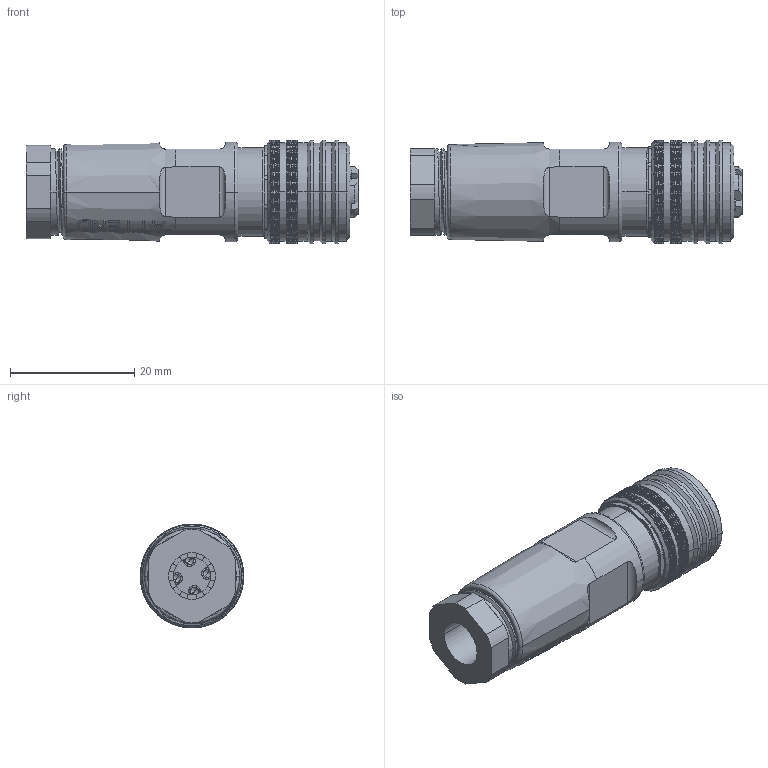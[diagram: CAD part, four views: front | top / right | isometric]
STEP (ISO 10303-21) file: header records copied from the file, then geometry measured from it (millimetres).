
FILE_DESCRIPTION((''),'2;1');
FILE_NAME('216D-04FF2_C_1_ASM','2026-04-27T',('fros.liao'),(''),'CREO PARAMETRIC BY PTC INC, 2018360','CREO PARAMETRIC BY PTC INC, 2018360','');
FILE_SCHEMA(('CONFIG_CONTROL_DESIGN'));
Products named in the file (16): SHIELD_NUT_1; PLASTIC_STRAPS_1; RUBBER_STRAPS_1; BACK_PLUG_1; BODY_1; ORING_PUSHPULL_1; THREAD_SLEEVE_ASM_2_ASM; SHELL_FEMALE_1_1_1; HSG_FEMALE_1_1_1; PIN_FEMALE_1_1_1; LOCK_FEMALE_1_1_1; ORING_FEMALE_1_1_1; OUTSHELL_FEMALE_1_1_1; 216D-04FO2_C_1_ASM_1_ASM_1_ASM; 216D-04FO2_C_1_ASM_1_ASM; 216D-04FF2_C_1_ASM
Assembly tree (18 placements, depth 4):
  216D-04FF2_C_1_ASM
    THREAD_SLEEVE_ASM_2_ASM
      SHIELD_NUT_1
      PLASTIC_STRAPS_1
      RUBBER_STRAPS_1
      BACK_PLUG_1
      BODY_1
      ORING_PUSHPULL_1
    216D-04FO2_C_1_ASM_1_ASM
      216D-04FO2_C_1_ASM_1_ASM_1_ASM
        SHELL_FEMALE_1_1_1
        HSG_FEMALE_1_1_1
        PIN_FEMALE_1_1_1  x4
        LOCK_FEMALE_1_1_1
        ORING_FEMALE_1_1_1
        OUTSHELL_FEMALE_1_1_1
Bounding box: 53.5 x 16.7 x 16.7 mm (x, y, z)
Volume: 7240.8 mm3; surface area: 11898.8 mm2
Topology: 15 solids, 15 shells, 2808 faces, 6720 edges, 3972 vertices
Faces by surface type: bspline 1554, cylinder 725, plane 379, cone 132, torus 18
Entity records: 122608 total; most frequent: CARTESIAN_POINT 71446, ORIENTED_EDGE 12880, EDGE_CURVE 6440, DIRECTION 6334, VERTEX_POINT 3798, B_SPLINE_CURVE_WITH_KNOTS 3571, EDGE_LOOP 2766, FACE_OUTER_BOUND 2703
